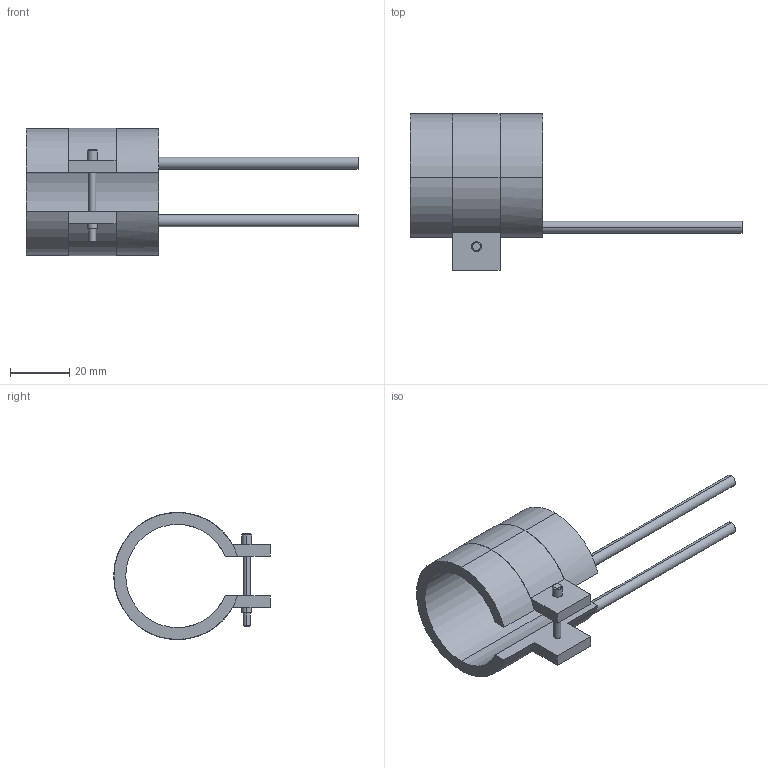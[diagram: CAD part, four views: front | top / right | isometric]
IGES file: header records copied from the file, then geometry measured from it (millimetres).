
Start section: START RECORD GO HERE.
Global section: file name: 14035045.igs; native system: DASSAULT SYSTEMES CATIA V5 R20 - www.3ds.com; preprocessor: CATIA Version 5 Release 20 ; author: Utente; organization: NB04-ASUS; date: 20210331.133539; units: millimetre
Bounding box: 112.5 x 53.1 x 43.2 mm (x, y, z)
Surface area: 13886 mm2 (no closed solid volume)
Topology: 0 solids, 0 shells, 45 faces, 232 edges, 232 vertices
Faces by surface type: revolution 28, plane 17
